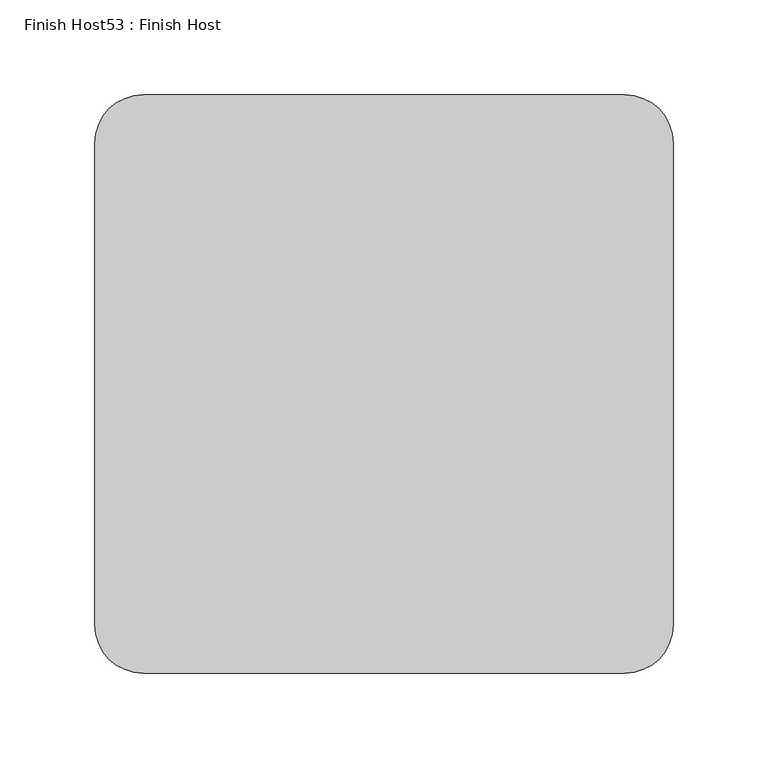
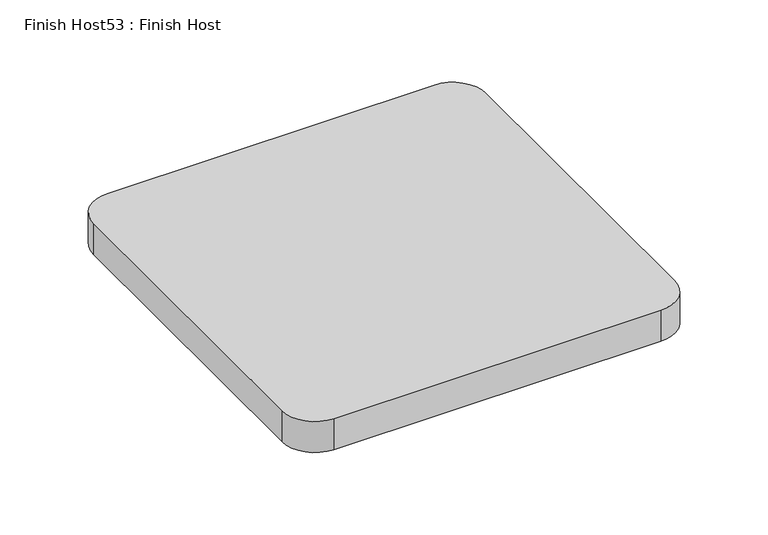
"""IFC4 building model written with IfcOpenShell, lengths in millimetres: proxy geometry, Finish Host53 : Finish Host."""

from ifc_helpers import new_model, si_unit, point, frame_2d, origin, origin_with_axes, place, context, project, spatial, polyline, circle_curve, trimmed, segment, composite_curve, outline, extrude, source, transform, mapped, element, save


def finish_host53_finish_host_fe3a5eb9(model_context):
    return source(origin(), model_context, "Body", "SweptSolid", [
        extrude(outline(composite_curve([segment(polyline([(9166.3478493, 1206.8122951), (9166.3478493, 1460.8122951)]), True, "CONTINUOUS"), segment(trimmed(circle_curve(frame_2d((9191.7478493, 1460.8122951)), 25.4), [point((9166.3478493, 1460.8122951))], [point((9191.7478493, 1486.2122951))], False, "CARTESIAN"), True, "CONTINUOUS"), segment(polyline([(9191.7478493, 1486.2122951), (9445.7478493, 1486.2122951)]), True, "CONTINUOUS"), segment(trimmed(circle_curve(frame_2d((9445.7478493, 1460.8122951)), 25.4), [point((9445.7478493, 1486.2122951))], [point((9471.1478493, 1460.8122951))], False, "CARTESIAN"), True, "CONTINUOUS"), segment(polyline([(9471.1478493, 1460.8122951), (9471.1478493, 1206.8122951)]), True, "CONTINUOUS"), segment(trimmed(circle_curve(frame_2d((9445.7478493, 1206.8122951)), 25.4), [point((9471.1478493, 1206.8122951))], [point((9445.7478493, 1181.4122951))], False, "CARTESIAN"), True, "CONTINUOUS"), segment(polyline([(9445.7478493, 1181.4122951), (9191.7478493, 1181.4122951)]), True, "CONTINUOUS"), segment(trimmed(circle_curve(frame_2d((9191.7478493, 1206.8122951)), 25.4), [point((9191.7478493, 1181.4122951))], [point((9166.3478493, 1206.8122951))], False, "CARTESIAN"), True, "CONTINUOUS")], self_intersect=False)), origin_with_axes(), (0.0, 0.0, 1.0), 25.4),
    ])


if __name__ == "__main__":
    model = new_model("IFC4")
    model_context = context("Model", 3, world=origin())
    ifc_project = project(units=[si_unit("LENGTHUNIT", "METRE", prefix="MILLI")], contexts=[model_context])
    site = spatial("IfcSite", under=ifc_project)
    building = spatial("IfcBuilding", under=site)
    placement = place(None, origin())
    finish_host53_finish_host_shape = finish_host53_finish_host_fe3a5eb9(model_context)
    element("IfcBuildingElementProxy", 1, Name="Finish Host53 : Finish Host", ObjectType="Finish Host53 : Finish Host", at=placement, inside=building, context=model_context, shape_type="MappedRepresentation", body=[
        mapped(finish_host53_finish_host_shape, transform((0.0, 0.0, 0.0), x_axis=(1.0, 0.0, 0.0), y_axis=(0.0, 1.0, 0.0), z_axis=(0.0, 0.0, 1.0))),
    ])
    save(model, "model.ifc")
